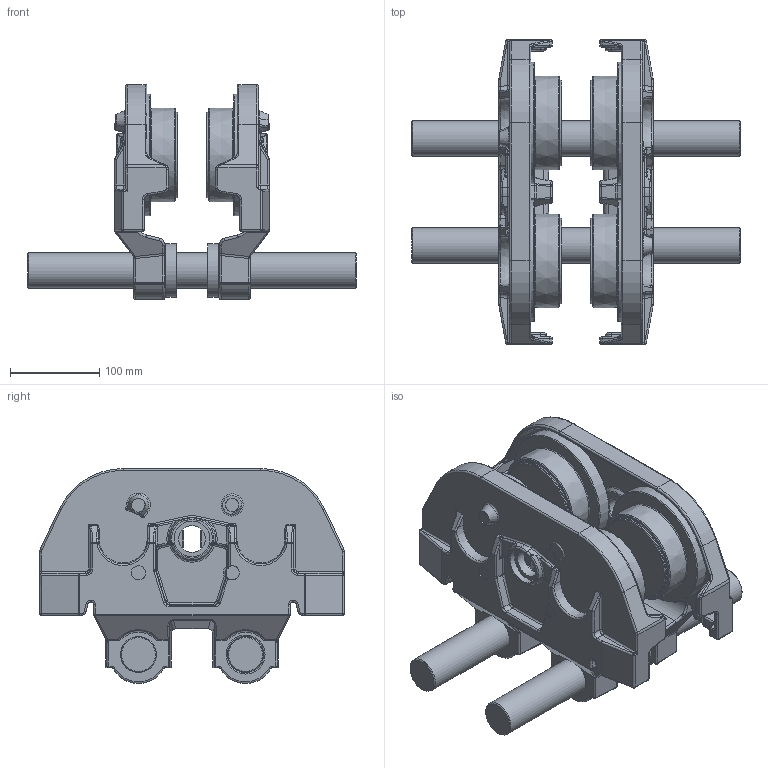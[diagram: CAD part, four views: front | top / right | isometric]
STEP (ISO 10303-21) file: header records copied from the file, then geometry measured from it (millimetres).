
FILE_DESCRIPTION(/* description */ (''),/* implementation_level */ '2;1');
FILE_NAME(/* name */ 'G:\Technik\3D-Dateien light_2015_10_02\Hebezeuge\Fahrwerke\9249.9202.L GHF,5000.stp',/* time_stamp */ '2020-09-08T15:03:39+02:00',/* author */ ('gispen'),/* organization */ (''),/* preprocessor_version */ 'ST-DEVELOPER v17.2',/* originating_system */ 'Autodesk Inventor 2019',/* authorisation */ '');
FILE_SCHEMA (('CONFIG_CONTROL_DESIGN'));
Length unit declared in the file: millimetre
Products named in the file (3): 9249.9202.L; 9249.9308.L; 9249.9309.L
Assembly tree (4 placements, depth 2):
  9249.9202.L
    9249.9308.L  x2
    9249.9309.L  x2
Bounding box: 368 x 341 x 240.72 mm (x, y, z)
Volume: 5076975.2 mm3; surface area: 635204 mm2
Topology: 4 solids, 4 shells, 1732 faces, 4100 edges, 2354 vertices
Faces by surface type: cylinder 592, bspline 498, plane 266, torus 210, sphere 106, cone 60
Full cylindrical faces by diameter (mm): 16 x2, 30 x2, 40 x12, 60 x4, 136.04 x4
Entity records: 34197 total; most frequent: CARTESIAN_POINT 13923, DIRECTION 4141, ORIENTED_EDGE 4048, EDGE_CURVE 2024, AXIS2_PLACEMENT_3D 1769, VERTEX_POINT 1177, CIRCLE 901, EDGE_LOOP 887
